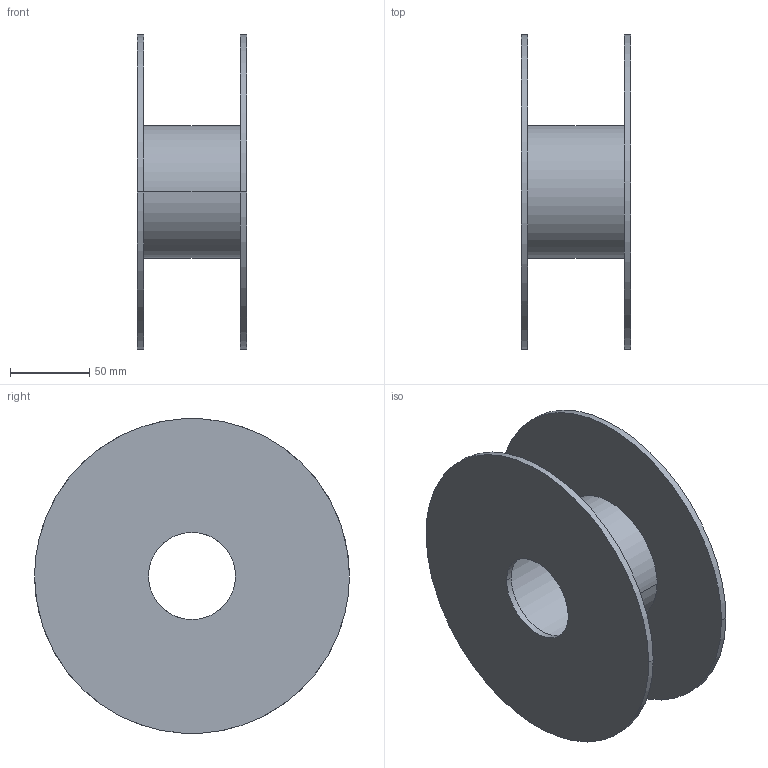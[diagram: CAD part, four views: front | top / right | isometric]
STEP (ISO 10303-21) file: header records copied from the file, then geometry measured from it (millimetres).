
FILE_DESCRIPTION(/* description */ (''),/* implementation_level */ '2;1');
FILE_NAME(/* name */ 'Rollo',/* time_stamp */ '2019-04-01T20:08:03-03:00',/* author */ (''),/* organization */ (''),/* preprocessor_version */ 'ST-DEVELOPER v16.5',/* originating_system */ '',/* authorisation */ '');
FILE_SCHEMA (('AUTOMOTIVE_DESIGN'));
Length unit declared in the file: millimetre
Products named in the file (1): Document
Bounding box: 69 x 199 x 198.67 mm (x, y, z)
Volume: 269355.7 mm3; surface area: 151635.9 mm2
Topology: 1 solids, 1 shells, 18 faces, 36 edges, 24 vertices
Faces by surface type: bspline 12, plane 6
Entity records: 537 total; most frequent: CARTESIAN_POINT 296, ORIENTED_EDGE 72, EDGE_CURVE 36, EDGE_LOOP 24, VERTEX_POINT 24, ADVANCED_FACE 18, FACE_OUTER_BOUND 18, DIRECTION 10
